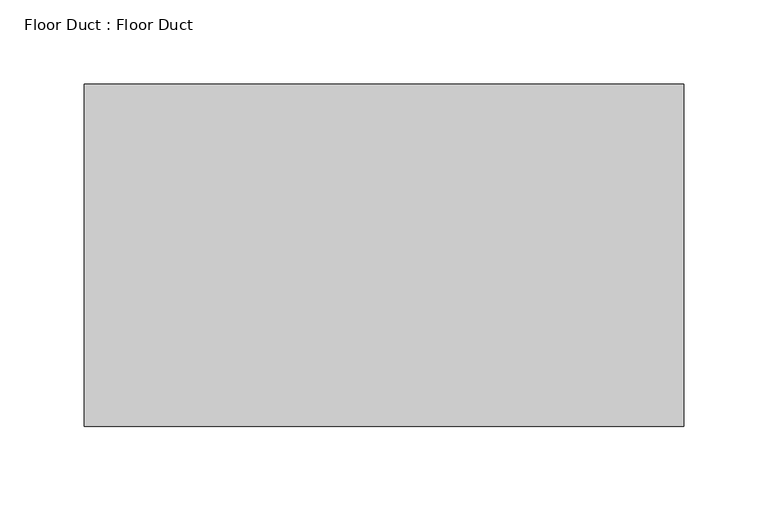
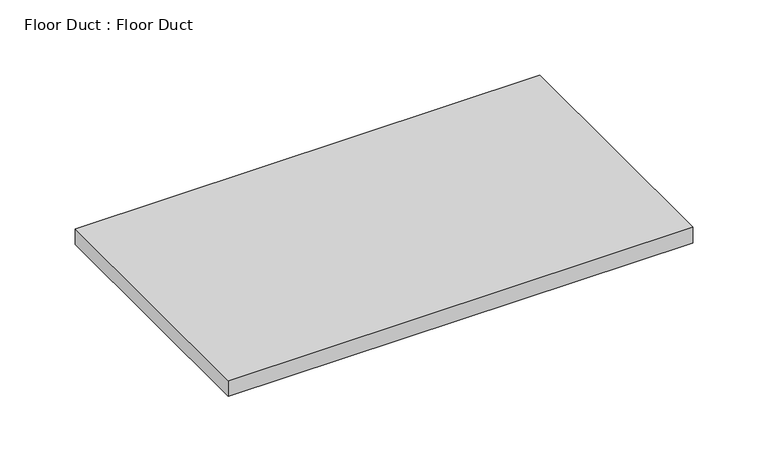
"""IFC4 building model written with IfcOpenShell, lengths in millimetres: proxy geometry, Floor Duct : Floor Duct."""

from ifc_helpers import new_model, si_unit, origin, origin_with_axes, place, context, project, spatial, polyline, outline, extrude, source, transform, mapped, element, save


def floor_duct_floor_duct_57648b96(model_context):
    return source(origin(), model_context, "Body", "SweptSolid", [
        extrude(outline(polyline([(177.8, 101.6), (177.8, -101.6), (-177.8, -101.6), (-177.8, 101.6), (177.8, 101.6)])), origin_with_axes(), (0.0, 0.0, 1.0), 12.7),
    ])


if __name__ == "__main__":
    model = new_model("IFC4")
    model_context = context("Model", 3, world=origin())
    ifc_project = project(units=[si_unit("LENGTHUNIT", "METRE", prefix="MILLI")], contexts=[model_context])
    site = spatial("IfcSite", under=ifc_project)
    building = spatial("IfcBuilding", under=site)
    placement = place(None, origin())
    floor_duct_floor_duct_shape = floor_duct_floor_duct_57648b96(model_context)
    element("IfcBuildingElementProxy", 1, Name="Floor Duct : Floor Duct", ObjectType="Floor Duct : Floor Duct", at=placement, inside=building, context=model_context, shape_type="MappedRepresentation", body=[
        mapped(floor_duct_floor_duct_shape, transform((0.0, 0.0, 0.0), x_axis=(1.0, 0.0, 0.0), y_axis=(0.0, 1.0, 0.0), z_axis=(0.0, 0.0, 1.0))),
    ])
    save(model, "model.ifc")
